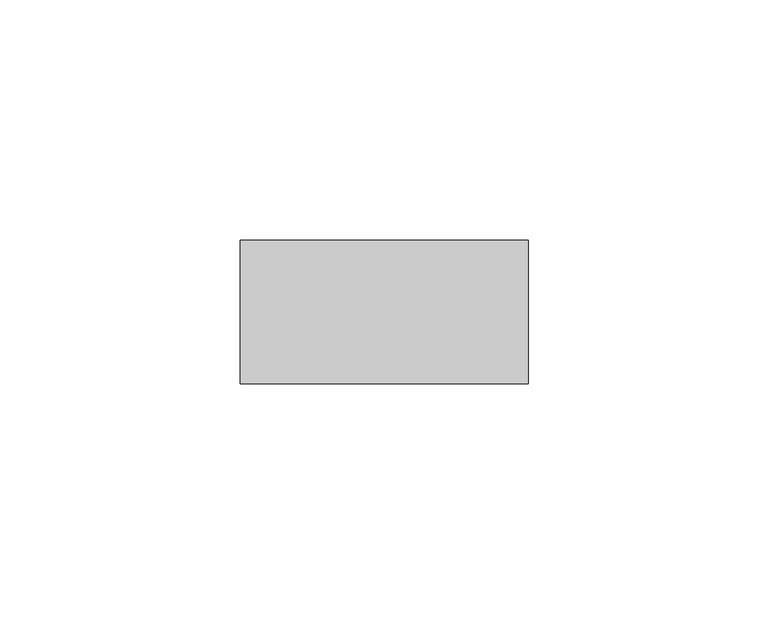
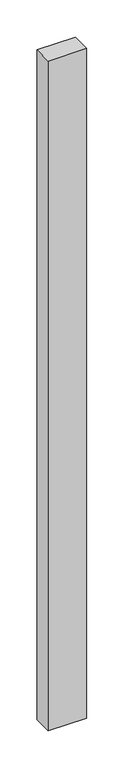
"""IFC4 building model written with IfcOpenShell, lengths in millimetres: member geometry, Прямоугольный импост : Квадрат 30 мм."""

import ifcopenshell
import ifcopenshell.guid

model = None  # the IFC model being written
_history = None  # IfcOwnerHistory: only IFC2X3 demands one
_inside = {}  # id of a spatial element -> (the spatial element, [elements in it])
_under = {}  # id of a project, library or spatial element -> (it, [spatial elements below it])
_declared = {}  # id of a project -> (the project, [libraries it declares])
_typed = {}  # id of a type object -> (the type object, [elements of that type])
_made_of = {}  # id of a material, layer set ... -> (it, [elements and type objects made of it])


def new_model(schema):
    """Start an empty IFC model of exactly this schema.

    Asked for "IFC4X3", IfcOpenShell would pick the latest addendum, in which some entities
    have other attributes; the version numbers below select the first issue.
    IFC2X3 requires an IfcOwnerHistory on every rooted entity: one is made here for all.
    """
    global model, _history
    if schema == "IFC4X3":
        model = ifcopenshell.file(schema_version=(4, 3, 0, 0))
    else:
        model = ifcopenshell.file(schema=schema)
    _inside.clear()
    _under.clear()
    _declared.clear()
    _typed.clear()
    _made_of.clear()
    _history = None
    if model.schema == "IFC2X3":
        org = make("IfcOrganization", Name="unknown")
        user = make(
            "IfcPersonAndOrganization",
            ThePerson=make("IfcPerson", FamilyName="unknown"),
            TheOrganization=org,
        )
        app = make(
            "IfcApplication",
            ApplicationDeveloper=org,
            Version="unknown",
            ApplicationFullName="unknown",
            ApplicationIdentifier="unknown",
        )
        _history = make(
            "IfcOwnerHistory",
            OwningUser=user,
            OwningApplication=app,
            ChangeAction="ADDED",
            CreationDate=0,
        )
    return model


def make(cls, **values):
    """One entity of the class cls with the attributes given. An attribute that is None is left unset."""
    return model.create_entity(
        cls, **{name: value for name, value in values.items() if value is not None}
    )


def rooted(cls, **values):
    """An entity with a GlobalId (a new one), such as an element, a storey or a relation."""
    return make(cls, GlobalId=ifcopenshell.guid.new(), OwnerHistory=_history, **values)


def si_unit(unit_type, name, prefix=None):
    """IfcSIUnit, for example si_unit("LENGTHUNIT", "METRE", prefix="MILLI")."""
    return make("IfcSIUnit", UnitType=unit_type, Prefix=prefix, Name=name)


def assignment(units):
    """IfcUnitAssignment: the units of a project."""
    return None if units is None else make("IfcUnitAssignment", Units=units)


def point(xyz):
    """IfcCartesianPoint."""
    return None if xyz is None else make("IfcCartesianPoint", Coordinates=xyz)


def direction(xyz):
    """IfcDirection."""
    return None if xyz is None else make("IfcDirection", DirectionRatios=xyz)


def frame(location, z_axis=None, x_axis=None):
    """IfcAxis2Placement3D, a coordinate frame: its origin and axes. An axis left out is left unset."""
    return make(
        "IfcAxis2Placement3D",
        Location=point(location),
        Axis=direction(z_axis),
        RefDirection=direction(x_axis),
    )


def origin():
    """The frame at (0, 0, 0) with its axes left unset."""
    return frame((0.0, 0.0, 0.0))


def place(relative_to, where):
    """IfcLocalPlacement: puts the frame where relative to a parent placement (None: the world)."""
    return make(
        "IfcLocalPlacement", PlacementRelTo=relative_to, RelativePlacement=where
    )


def context(
    kind, dimensions, precision=None, world=None, true_north=None, identifier=None
):
    """IfcGeometricRepresentationContext, for example the 3D "Model" context."""
    return make(
        "IfcGeometricRepresentationContext",
        ContextIdentifier=identifier,
        ContextType=kind,
        CoordinateSpaceDimension=dimensions,
        Precision=precision,
        WorldCoordinateSystem=world,
        TrueNorth=true_north,
    )


def project(units=None, contexts=None):
    """IfcProject with its units and contexts."""
    return rooted(
        "IfcProject",
        Name="project",
        RepresentationContexts=contexts,
        UnitsInContext=assignment(units),
    )


def spatial(cls, under=None, at=None, **own):
    """A site, building, storey or space (cls), placed at a placement, below another one or the project."""
    s = rooted(cls, ObjectPlacement=at, **own)
    if under is not None:
        _under.setdefault(under.id(), (under, []))[1].append(s)
    return s


def polyline(points):
    """IfcPolyline through the points."""
    return make("IfcPolyline", Points=[point(p) for p in points])


def outline(outer, holes=None, kind="AREA"):
    """IfcArbitraryClosedProfileDef: a profile drawn as a closed curve; with holes, ...WithVoids."""
    if holes is None:
        return make("IfcArbitraryClosedProfileDef", ProfileType=kind, OuterCurve=outer)
    return make(
        "IfcArbitraryProfileDefWithVoids",
        ProfileType=kind,
        OuterCurve=outer,
        InnerCurves=holes,
    )


def extrude(swept, where, along, depth):
    """IfcExtrudedAreaSolid: the profile swept, set in the frame where, extruded along a direction by depth."""
    return make(
        "IfcExtrudedAreaSolid",
        SweptArea=swept,
        Position=where,
        ExtrudedDirection=direction(along),
        Depth=depth,
    )


def shape(context_of_items, identifier, shape_type, items):
    """IfcShapeRepresentation: the items that make up one representation, for example the "Body"."""
    return make(
        "IfcShapeRepresentation",
        ContextOfItems=context_of_items,
        RepresentationIdentifier=identifier,
        RepresentationType=shape_type,
        Items=items,
    )


def source(mapping_origin, context_of_items, identifier, shape_type, items):
    """IfcRepresentationMap: a shape defined once, which mapped items show again and again."""
    return make(
        "IfcRepresentationMap",
        MappingOrigin=mapping_origin,
        MappedRepresentation=shape(context_of_items, identifier, shape_type, items),
    )


def transform(
    local_origin,
    x_axis=None,
    y_axis=None,
    z_axis=None,
    scale=None,
    scale2=None,
    scale3=None,
    uniform=True,
):
    """IfcCartesianTransformationOperator3D, or its non-uniform kind. x_axis, y_axis, z_axis: its Axis1, 2, 3."""
    if uniform:
        return make(
            "IfcCartesianTransformationOperator3D",
            Axis1=direction(x_axis),
            Axis2=direction(y_axis),
            LocalOrigin=point(local_origin),
            Scale=scale,
            Axis3=direction(z_axis),
        )
    return make(
        "IfcCartesianTransformationOperator3DnonUniform",
        Axis1=direction(x_axis),
        Axis2=direction(y_axis),
        LocalOrigin=point(local_origin),
        Scale=scale,
        Axis3=direction(z_axis),
        Scale2=scale2,
        Scale3=scale3,
    )


def mapped(mapping_source, mapping_target):
    """IfcMappedItem: shows the shape of a source again, moved by a transform."""
    return make(
        "IfcMappedItem", MappingSource=mapping_source, MappingTarget=mapping_target
    )


def made_of(thing, what):
    """Note that an element or type object is made of a material, layer set ...; save() writes the relation."""
    if what is not None:
        _made_of.setdefault(what.id(), (what, []))[1].append(thing)
    return thing


def element(
    cls,
    number,
    at=None,
    inside=None,
    cuts=None,
    type_object=None,
    material=None,
    context=None,
    identifier="Body",
    shape_type=None,
    held_by="IfcProductDefinitionShape",
    body=None,
    shapes=None,
    **own,
):
    """One element of the class cls, such as IfcWall. Its Tag is "e" and its number.

    at: its placement. inside: the storey or other place that contains it. cuts: it is an
    opening in that element (IfcRelVoidsElement). A single representation is given by context,
    identifier, shape_type and body (its items); several are given by shapes. held_by: the class
    of the entity that holds the representations. save() writes the other relations.
    """
    e = rooted(cls, Tag="e%d" % number, ObjectPlacement=at, **own)
    if body is not None:
        shapes = [shape(context, identifier, shape_type, body)]
    if shapes is not None:
        e.Representation = make(held_by, Representations=shapes)
    if inside is not None:
        _inside.setdefault(inside.id(), (inside, []))[1].append(e)
    if cuts is not None:
        rooted(
            "IfcRelVoidsElement", RelatingBuildingElement=cuts, RelatedOpeningElement=e
        )
    if type_object is not None:
        _typed.setdefault(type_object.id(), (type_object, []))[1].append(e)
    return made_of(e, material)


def aggregate(whole, parts):
    """IfcRelAggregates: a whole, such as a stair, and the parts it consists of."""
    return rooted("IfcRelAggregates", RelatingObject=whole, RelatedObjects=parts)


def save(model, path):
    """Write the relations noted so far, then the file.

    IfcRelAggregates (storeys below a building ...), IfcRelContainedInSpatialStructure (elements
    in a storey), IfcRelDefinesByType, IfcRelAssociatesMaterial and IfcRelDeclares: one each for
    every whole, place, type object, material and project.
    """
    for whole, parts in _under.values():
        aggregate(whole, parts)
    for where, things in _inside.values():
        rooted(
            "IfcRelContainedInSpatialStructure",
            RelatedElements=things,
            RelatingStructure=where,
        )
    for kind, things in _typed.values():
        rooted("IfcRelDefinesByType", RelatedObjects=things, RelatingType=kind)
    for what, things in _made_of.values():
        rooted("IfcRelAssociatesMaterial", RelatedObjects=things, RelatingMaterial=what)
    for by, libraries in _declared.values():
        rooted("IfcRelDeclares", RelatingContext=by, RelatedDefinitions=libraries)
    model.write(path)


def member_ec48965c(model_context):
    return source(origin(), model_context, "Body", "SweptSolid", [
        extrude(outline(polyline([(30.0, 15.0), (30.0, -15.0), (-30.0, -15.0), (-30.0, 15.0), (30.0, 15.0)])), frame((0.0, 0.0, -1100.0), z_axis=(0.0, 0.0, 1.0), x_axis=(1.0, 0.0, 0.0)), (0.0, 0.0, 1.0), 1100.0),
    ])


if __name__ == "__main__":
    model = new_model("IFC4")
    model_context = context("Model", 3, world=origin())
    ifc_project = project(units=[si_unit("LENGTHUNIT", "METRE", prefix="MILLI")], contexts=[model_context])
    site = spatial("IfcSite", under=ifc_project)
    building = spatial("IfcBuilding", under=site)
    placement = place(None, origin())
    member_shape = member_ec48965c(model_context)
    element("IfcMember", 1, ObjectType="Прямоугольный импост : Квадрат 30 мм", at=placement, inside=building, context=model_context, shape_type="MappedRepresentation", body=[
        mapped(member_shape, transform((0.0, 0.0, 0.0), x_axis=(1.0, 0.0, 0.0), y_axis=(0.0, 1.0, 0.0), z_axis=(0.0, 0.0, 1.0))),
    ])
    save(model, "model.ifc")
